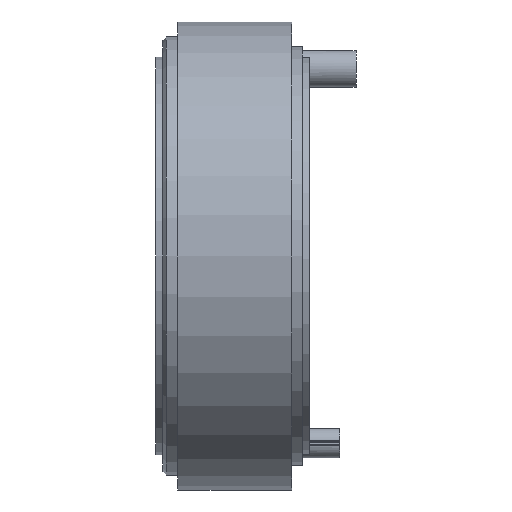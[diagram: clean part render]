
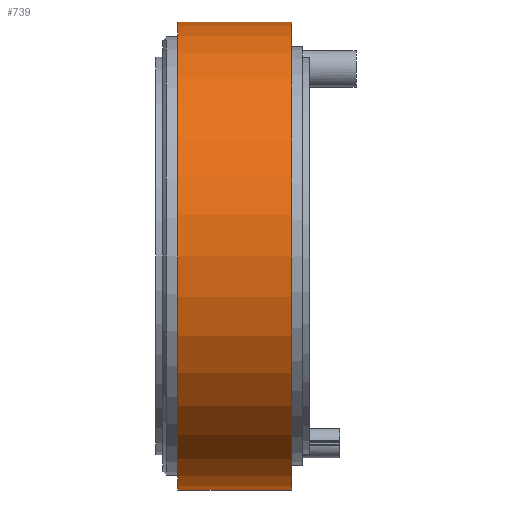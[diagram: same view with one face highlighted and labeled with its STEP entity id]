
A CAD part, left-side view. The second image highlights one B-rep face of the part: STEP entity #739.
In plain terms, the highlighted cylindrical face has radius 25.4 mm (diameter 50.8 mm), a partial arc.
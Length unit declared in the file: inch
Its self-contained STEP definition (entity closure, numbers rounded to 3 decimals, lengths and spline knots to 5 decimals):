
#29 = ORIENTED_EDGE ( 'NONE', *, *, #173, .T. ) ;
#49 = ORIENTED_EDGE ( 'NONE', *, *, #294, .F. ) ;
#57 = ORIENTED_EDGE ( 'NONE', *, *, #167, .F. ) ;
#81 = ORIENTED_EDGE ( 'NONE', *, *, #284, .T. ) ;
#167 = EDGE_CURVE ( 'NONE', #5173, #5178, #1731, .T. ) ;
#173 = EDGE_CURVE ( 'NONE', #5214, #5209, #1705, .T. ) ;
#284 = EDGE_CURVE ( 'NONE', #5173, #5214, #1849, .T. ) ;
#294 = EDGE_CURVE ( 'NONE', #5178, #5209, #1851, .T. ) ;
#562 = AXIS2_PLACEMENT_3D ( 'NONE', #5360, #5361, #5365 ) ;
#593 = AXIS2_PLACEMENT_3D ( 'NONE', #5426, #5444, #5428 ) ;
#739 = ADVANCED_FACE ( 'NONE', ( #2350 ), #2378, .T. ) ;
#1068 = EDGE_LOOP ( 'NONE', ( #49, #57, #81, #29 ) ) ;
#1705 = CIRCLE ( 'NONE', #593, 1. ) ;
#1731 = CIRCLE ( 'NONE', #562, 1. ) ;
#1834 = VECTOR ( 'NONE', #2688, 39.37008 ) ;
#1849 = LINE ( 'NONE', #2706, #1834 ) ;
#1851 = LINE ( 'NONE', #2731, #1852 ) ;
#1852 = VECTOR ( 'NONE', #2752, 39.37008 ) ;
#2350 = FACE_OUTER_BOUND ( 'NONE', #1068, .T. ) ;
#2378 = CYLINDRICAL_SURFACE ( 'NONE', #3948, 1. ) ;
#2688 = DIRECTION ( 'NONE',  ( 0., 1., 0. ) ) ;
#2706 = CARTESIAN_POINT ( 'NONE',  ( 0., 0.075, 1. ) ) ;
#2731 = CARTESIAN_POINT ( 'NONE',  ( 0., 0.075, -1. ) ) ;
#2752 = DIRECTION ( 'NONE',  ( 0., 1., 0. ) ) ;
#3948 = AXIS2_PLACEMENT_3D ( 'NONE', #4653, #4656, #4678 ) ;
#4653 = CARTESIAN_POINT ( 'NONE',  ( 0., 0.075, 0. ) ) ;
#4656 = DIRECTION ( 'NONE',  ( 0., 1., 0. ) ) ;
#4678 = DIRECTION ( 'NONE',  ( 0., 0., 1. ) ) ;
#4820 = CARTESIAN_POINT ( 'NONE',  ( 0., 0.562, -1. ) ) ;
#4853 = CARTESIAN_POINT ( 'NONE',  ( 0., 0.075, 1. ) ) ;
#4862 = CARTESIAN_POINT ( 'NONE',  ( 0., 0.075, -1. ) ) ;
#4865 = CARTESIAN_POINT ( 'NONE',  ( 0., 0.562, 1. ) ) ;
#5173 = VERTEX_POINT ( 'NONE', #4853 ) ;
#5178 = VERTEX_POINT ( 'NONE', #4862 ) ;
#5209 = VERTEX_POINT ( 'NONE', #4820 ) ;
#5214 = VERTEX_POINT ( 'NONE', #4865 ) ;
#5360 = CARTESIAN_POINT ( 'NONE',  ( 0., 0.075, 0. ) ) ;
#5361 = DIRECTION ( 'NONE',  ( 0., -1., 0. ) ) ;
#5365 = DIRECTION ( 'NONE',  ( 0., 0., -1. ) ) ;
#5426 = CARTESIAN_POINT ( 'NONE',  ( 0., 0.562, 0. ) ) ;
#5428 = DIRECTION ( 'NONE',  ( 0., 0., -1. ) ) ;
#5444 = DIRECTION ( 'NONE',  ( 0., -1., 0. ) ) ;
